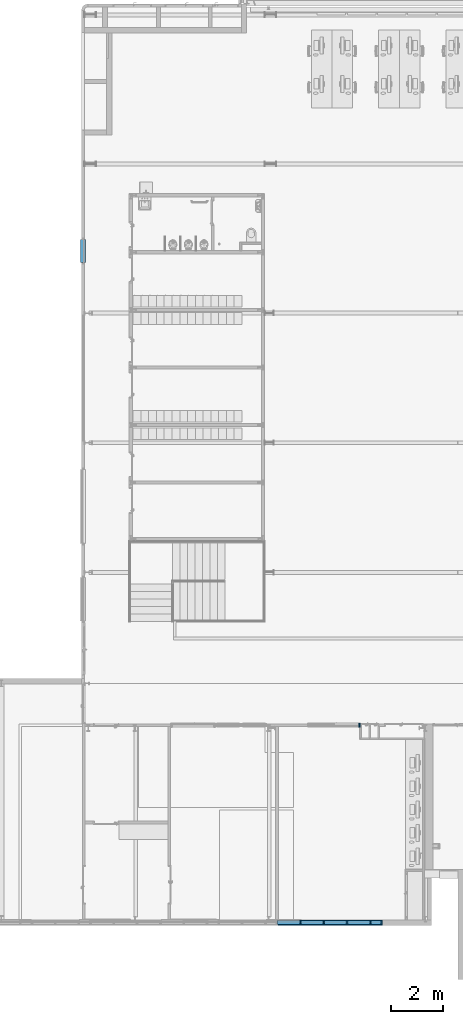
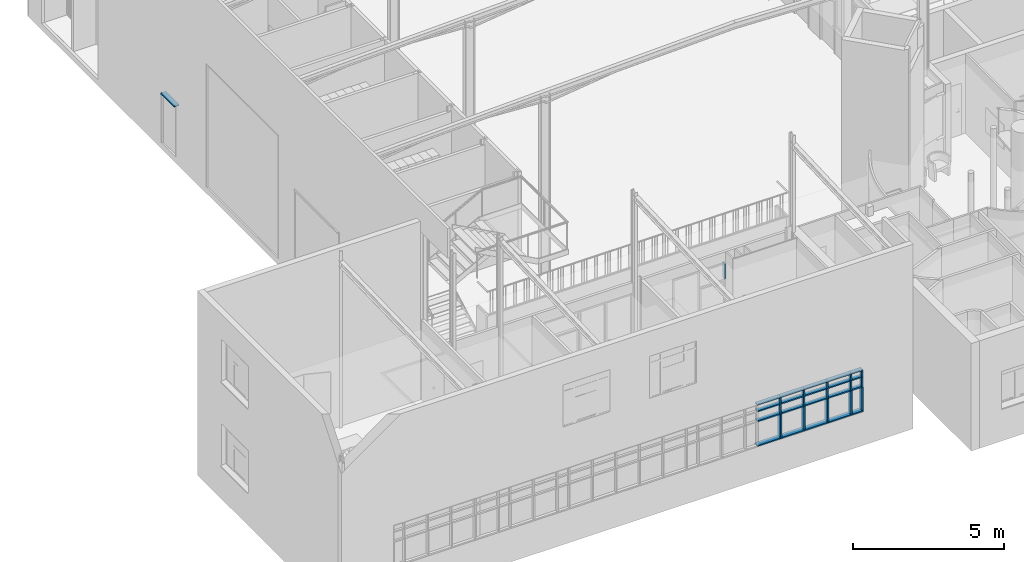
# One storey, part 22 of 137: 37 members, 3 elements without a shape of their own.
"""IFC2X3 building model written with IfcOpenShell, lengths in centimetres."""

from ifc_helpers import new_model, entity, si_unit, converted_unit, derived_unit, direction, frame, frame_2d, origin, origin_2d_with_axis, place, context, subcontext, project, spatial, rectangle, extrude, material, type_object, element, aggregate, save


model = new_model("IFC2X3")

# Units and contexts
model_context = context("Model", 3, precision=0.001, world=origin(), true_north=direction((6.12303176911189e-17, 1.0)))
body_context = subcontext(model_context, "Body", "Model", "MODEL_VIEW")
ifc_project = project(units=[si_unit("LENGTHUNIT", "METRE", prefix="CENTI"), si_unit("AREAUNIT", "SQUARE_METRE"), si_unit("VOLUMEUNIT", "CUBIC_METRE"), converted_unit("PLANEANGLEUNIT", "DEGREE", entity("IfcRatioMeasure", 0.0174532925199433), si_unit("PLANEANGLEUNIT", "RADIAN"), dimensions=[0, 0, 0, 0, 0, 0, 0]), si_unit("MASSUNIT", "GRAM", prefix="KILO"), si_unit("TIMEUNIT", "SECOND"), si_unit("FREQUENCYUNIT", "HERTZ"), si_unit("THERMODYNAMICTEMPERATUREUNIT", "DEGREE_CELSIUS"), derived_unit("THERMALTRANSMITTANCEUNIT", [(si_unit("MASSUNIT", "GRAM", prefix="KILO"), 1), (si_unit("THERMODYNAMICTEMPERATUREUNIT", "KELVIN"), -1), (si_unit("TIMEUNIT", "SECOND"), -3)]), derived_unit("VOLUMETRICFLOWRATEUNIT", [(si_unit("LENGTHUNIT", "METRE"), 3), (si_unit("TIMEUNIT", "SECOND"), -1)]), si_unit("ELECTRICCURRENTUNIT", "AMPERE"), si_unit("ELECTRICVOLTAGEUNIT", "VOLT"), si_unit("POWERUNIT", "WATT"), si_unit("FORCEUNIT", "NEWTON", prefix="KILO"), si_unit("ILLUMINANCEUNIT", "LUX"), si_unit("LUMINOUSFLUXUNIT", "LUMEN"), si_unit("LUMINOUSINTENSITYUNIT", "CANDELA"), derived_unit("USERDEFINED", [(si_unit("MASSUNIT", "GRAM", prefix="KILO"), -1), (si_unit("LENGTHUNIT", "METRE"), -2), (si_unit("TIMEUNIT", "SECOND"), 3), (si_unit("LUMINOUSFLUXUNIT", "LUMEN"), 1)]), derived_unit("LINEARVELOCITYUNIT", [(si_unit("LENGTHUNIT", "METRE"), 1), (si_unit("TIMEUNIT", "SECOND"), -1)]), si_unit("PRESSUREUNIT", "PASCAL"), derived_unit("USERDEFINED", [(si_unit("LENGTHUNIT", "METRE"), -2), (si_unit("MASSUNIT", "GRAM", prefix="KILO"), 1), (si_unit("TIMEUNIT", "SECOND"), -2)])], contexts=[model_context])

# Site, building, storey
site_placement = place(None, frame((8.62739174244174, -249.285249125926, 0.0)))
site = spatial("IfcSite", under=ifc_project, at=site_placement, Name="Default", CompositionType="ELEMENT")
building_placement = place(site_placement, origin())
building = spatial("IfcBuilding", under=site, at=building_placement, CompositionType="ELEMENT")
storey_placement = place(building_placement, origin())
storey = spatial("IfcBuildingStorey", under=building, at=storey_placement, Name="RDC", CompositionType="ELEMENT", Elevation=-8.82465566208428e-11)

# Curtain wall, members
curtain_wall_type = type_object("IfcCurtainWallType", Name="Mur-rideau:Simple panneau", PredefinedType="NOTDEFINED")
curtain_wall_1_placement = place(storey_placement, origin())
curtain_wall_1 = element("IfcCurtainWall", 1, at=curtain_wall_1_placement, inside=storey, type_object=curtain_wall_type, Name="Mur-rideau:Simple panneau", ObjectType="Mur-rideau:Simple panneau")
ifc_material = material(Name="Plastique, blanc opaque")
member_1_placement = place(curtain_wall_1_placement, origin())
member_1 = element("IfcMember", 2, at=member_1_placement, material=ifc_material, Name="Mur-rideau:Simple panneau:661", ObjectType="Mur-rideau:Simple panneau:661", context=body_context, shape_type="SweptSolid", body=[
    extrude(rectangle(XDim=5.0, YDim=15.0, at=frame_2d((2.70894418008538e-14, 1.46105350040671e-13), x_axis=(1.0, 0.0))), frame((1999.0, 11.0, 277.500000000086), z_axis=(-1.0, 0.0, 0.0), x_axis=(0.0, 0.0, -1.0)), (0.0, 0.0, 1.0), 45.0000000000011),
])
member_2_placement = place(curtain_wall_1_placement, origin())
member_2 = element("IfcMember", 3, at=member_2_placement, material=ifc_material, Name="Mur-rideau:Simple panneau", ObjectType="Mur-rideau:Simple panneau", context=body_context, shape_type="SweptSolid", body=[
    extrude(rectangle(XDim=5.00000000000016, YDim=20.0, at=frame_2d((-2.16715534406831e-13, 1.77635683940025e-15), x_axis=(1.0, 0.0))), frame((1996.5, 11.0, 115.0), z_axis=(0.0, 0.0, 1.0), x_axis=(-1.0, 0.0, 0.0)), (0.0, 0.0, 1.0), 95.0),
])
member_3_placement = place(curtain_wall_1_placement, origin())
member_3 = element("IfcMember", 4, at=member_3_placement, material=ifc_material, Name="Mur-rideau:Simple panneau:661", ObjectType="Mur-rideau:Simple panneau:661", context=body_context, shape_type="SweptSolid", body=[
    extrude(rectangle(XDim=5.00000000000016, YDim=15.0, at=frame_2d((-2.16715534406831e-13, 1.33226762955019e-15), x_axis=(1.0, 0.0))), frame((1996.5, 11.0, 210.0), z_axis=(0.0, 0.0, 1.0), x_axis=(-1.0, 0.0, 0.0)), (0.0, 0.0, 1.0), 40.0),
])
member_4_placement = place(curtain_wall_1_placement, origin())
member_4 = element("IfcMember", 5, at=member_4_placement, material=ifc_material, Name="Mur-rideau:Simple panneau:661", ObjectType="Mur-rideau:Simple panneau:661", context=body_context, shape_type="SweptSolid", body=[
    extrude(rectangle(XDim=5.00000000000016, YDim=15.0, at=frame_2d((-2.16715534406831e-13, 1.33226762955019e-15), x_axis=(1.0, 0.0))), frame((1996.5, 11.0, 250.0), z_axis=(0.0, 0.0, 1.0), x_axis=(-1.0, 0.0, 0.0)), (0.0, 0.0, 1.0), 25.0),
])
member_5_placement = place(curtain_wall_1_placement, origin())
member_5 = element("IfcMember", 6, at=member_5_placement, material=ifc_material, Name="Mur-rideau:Simple panneau", ObjectType="Mur-rideau:Simple panneau", context=body_context, shape_type="SweptSolid", body=[
    extrude(rectangle(XDim=5.0, YDim=20.0, at=frame_2d((0.0, 2.91322521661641e-13), x_axis=(1.0, 0.0))), frame((1594.0, 11.0, 112.500000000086), z_axis=(1.0, 0.0, 0.0), x_axis=(0.0, 0.0, -1.0)), (0.0, 0.0, 1.0), 90.0),
])
member_6_placement = place(curtain_wall_1_placement, origin())
member_6 = element("IfcMember", 7, at=member_6_placement, material=ifc_material, Name="Mur-rideau:Simple panneau:661", ObjectType="Mur-rideau:Simple panneau:661", context=body_context, shape_type="SweptSolid", body=[
    extrude(rectangle(XDim=5.0, YDim=15.0, at=frame_2d((2.70894418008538e-14, 2.89990254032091e-13), x_axis=(1.0, 0.0))), frame((1684.0, 11.0, 277.500000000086), z_axis=(-1.0, 0.0, 0.0), x_axis=(0.0, 0.0, -1.0)), (0.0, 0.0, 1.0), 89.9999999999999),
])
member_7_placement = place(curtain_wall_1_placement, origin())
member_7 = element("IfcMember", 8, at=member_7_placement, material=ifc_material, Name="Mur-rideau:Simple panneau", ObjectType="Mur-rideau:Simple panneau", context=body_context, shape_type="SweptSolid", body=[
    extrude(rectangle(XDim=5.0, YDim=20.0, at=frame_2d((0.0, 2.91322521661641e-13), x_axis=(1.0, 0.0))), frame((1684.0, 11.0, 112.500000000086), z_axis=(1.0, 0.0, 0.0), x_axis=(0.0, 0.0, -1.0)), (0.0, 0.0, 1.0), 90.0),
])
member_8_placement = place(curtain_wall_1_placement, origin())
member_8 = element("IfcMember", 9, at=member_8_placement, material=ifc_material, Name="Mur-rideau:Simple panneau:661", ObjectType="Mur-rideau:Simple panneau:661", context=body_context, shape_type="SweptSolid", body=[
    extrude(rectangle(XDim=5.0, YDim=15.0, at=frame_2d((2.70894418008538e-14, 2.89990254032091e-13), x_axis=(1.0, 0.0))), frame((1774.0, 11.0, 277.500000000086), z_axis=(-1.0, 0.0, 0.0), x_axis=(0.0, 0.0, -1.0)), (0.0, 0.0, 1.0), 89.9999999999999),
])
member_9_placement = place(curtain_wall_1_placement, origin())
member_9 = element("IfcMember", 10, at=member_9_placement, material=ifc_material, Name="Mur-rideau:Simple panneau", ObjectType="Mur-rideau:Simple panneau", context=body_context, shape_type="SweptSolid", body=[
    extrude(rectangle(XDim=5.0, YDim=20.0, at=frame_2d((0.0, 2.91322521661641e-13), x_axis=(1.0, 0.0))), frame((1774.0, 11.0, 112.500000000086), z_axis=(1.0, 0.0, 0.0), x_axis=(0.0, 0.0, -1.0)), (0.0, 0.0, 1.0), 90.0),
])
member_10_placement = place(curtain_wall_1_placement, origin())
member_10 = element("IfcMember", 11, at=member_10_placement, material=ifc_material, Name="Mur-rideau:Simple panneau:661", ObjectType="Mur-rideau:Simple panneau:661", context=body_context, shape_type="SweptSolid", body=[
    extrude(rectangle(XDim=5.0, YDim=15.0, at=frame_2d((2.70894418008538e-14, 2.89990254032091e-13), x_axis=(1.0, 0.0))), frame((1864.0, 11.0, 277.500000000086), z_axis=(-1.0, 0.0, 0.0), x_axis=(0.0, 0.0, -1.0)), (0.0, 0.0, 1.0), 89.9999999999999),
])
member_11_placement = place(curtain_wall_1_placement, origin())
member_11 = element("IfcMember", 12, at=member_11_placement, material=ifc_material, Name="Mur-rideau:Simple panneau", ObjectType="Mur-rideau:Simple panneau", context=body_context, shape_type="SweptSolid", body=[
    extrude(rectangle(XDim=5.0, YDim=20.0, at=frame_2d((0.0, 2.91322521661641e-13), x_axis=(1.0, 0.0))), frame((1864.0, 11.0, 112.500000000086), z_axis=(1.0, 0.0, 0.0), x_axis=(0.0, 0.0, -1.0)), (0.0, 0.0, 1.0), 90.0000000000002),
])
member_12_placement = place(curtain_wall_1_placement, origin())
member_12 = element("IfcMember", 13, at=member_12_placement, material=ifc_material, Name="Mur-rideau:Simple panneau:661", ObjectType="Mur-rideau:Simple panneau:661", context=body_context, shape_type="SweptSolid", body=[
    extrude(rectangle(XDim=5.0, YDim=15.0, at=frame_2d((2.70894418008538e-14, 2.89990254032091e-13), x_axis=(1.0, 0.0))), frame((1954.0, 11.0, 277.500000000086), z_axis=(-1.0, 0.0, 0.0), x_axis=(0.0, 0.0, -1.0)), (0.0, 0.0, 1.0), 89.9999999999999),
])
member_13_placement = place(curtain_wall_1_placement, origin())
member_13 = element("IfcMember", 14, at=member_13_placement, material=ifc_material, Name="Mur-rideau:Simple panneau", ObjectType="Mur-rideau:Simple panneau", context=body_context, shape_type="SweptSolid", body=[
    extrude(rectangle(XDim=5.0, YDim=20.0, at=frame_2d((0.0, 1.47437617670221e-13), x_axis=(1.0, 0.0))), frame((1954.0, 11.0, 112.500000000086), z_axis=(1.0, 0.0, 0.0), x_axis=(0.0, 0.0, -1.0)), (0.0, 0.0, 1.0), 45.0000000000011),
])
member_14_placement = place(curtain_wall_1_placement, origin())
member_14 = element("IfcMember", 15, at=member_14_placement, material=ifc_material, Name="Mur-rideau:Simple panneau:661", ObjectType="Mur-rideau:Simple panneau:661", context=body_context, shape_type="SweptSolid", body=[
    extrude(rectangle(XDim=4.99999999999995, YDim=15.0, at=frame_2d((0.0, 1.20792265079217e-13), x_axis=(1.0, 0.0))), frame((1994.0, 11.0, 250.0), z_axis=(-1.0, 0.0, 0.0), x_axis=(0.0, 0.0, -1.0)), (0.0, 0.0, 1.0), 37.5000000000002),
])
member_15_placement = place(curtain_wall_1_placement, origin())
member_15 = element("IfcMember", 16, at=member_15_placement, material=ifc_material, Name="Mur-rideau:Simple panneau:661", ObjectType="Mur-rideau:Simple panneau:661", context=body_context, shape_type="SweptSolid", body=[
    extrude(rectangle(XDim=4.99999999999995, YDim=15.0, at=frame_2d((0.0, 2.74003042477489e-13), x_axis=(1.0, 0.0))), frame((1951.5, 11.0, 250.0), z_axis=(-1.0, 0.0, 0.0), x_axis=(0.0, 0.0, -1.0)), (0.0, 0.0, 1.0), 85.0),
])
member_16_placement = place(curtain_wall_1_placement, origin())
member_16 = element("IfcMember", 17, at=member_16_placement, material=ifc_material, Name="Mur-rideau:Simple panneau:661", ObjectType="Mur-rideau:Simple panneau:661", context=body_context, shape_type="SweptSolid", body=[
    extrude(rectangle(XDim=4.99999999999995, YDim=15.0, at=frame_2d((0.0, 2.74003042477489e-13), x_axis=(1.0, 0.0))), frame((1861.5, 11.0, 250.0), z_axis=(-1.0, 0.0, 0.0), x_axis=(0.0, 0.0, -1.0)), (0.0, 0.0, 1.0), 85.0),
])
member_17_placement = place(curtain_wall_1_placement, origin())
member_17 = element("IfcMember", 18, at=member_17_placement, material=ifc_material, Name="Mur-rideau:Simple panneau:661", ObjectType="Mur-rideau:Simple panneau:661", context=body_context, shape_type="SweptSolid", body=[
    extrude(rectangle(XDim=4.99999999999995, YDim=15.0, at=frame_2d((0.0, 2.74003042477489e-13), x_axis=(1.0, 0.0))), frame((1771.5, 11.0, 250.0), z_axis=(-1.0, 0.0, 0.0), x_axis=(0.0, 0.0, -1.0)), (0.0, 0.0, 1.0), 85.0),
])
member_18_placement = place(curtain_wall_1_placement, origin())
member_18 = element("IfcMember", 19, at=member_18_placement, material=ifc_material, Name="Mur-rideau:Simple panneau:661", ObjectType="Mur-rideau:Simple panneau:661", context=body_context, shape_type="SweptSolid", body=[
    extrude(rectangle(XDim=4.99999999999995, YDim=15.0, at=frame_2d((0.0, 2.74003042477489e-13), x_axis=(1.0, 0.0))), frame((1681.5, 11.0, 250.0), z_axis=(-1.0, 0.0, 0.0), x_axis=(0.0, 0.0, -1.0)), (0.0, 0.0, 1.0), 85.0),
])
member_19_placement = place(curtain_wall_1_placement, origin())
member_19 = element("IfcMember", 20, at=member_19_placement, material=ifc_material, Name="Mur-rideau:Simple panneau:661", ObjectType="Mur-rideau:Simple panneau:661", context=body_context, shape_type="SweptSolid", body=[
    extrude(rectangle(XDim=5.0, YDim=15.0, at=frame_2d((0.0, 1.20792265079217e-13), x_axis=(1.0, 0.0))), frame((1994.0, 11.0, 210.0), z_axis=(-1.0, 0.0, 0.0), x_axis=(0.0, 0.0, -1.0)), (0.0, 0.0, 1.0), 37.5000000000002),
])
member_20_placement = place(curtain_wall_1_placement, origin())
member_20 = element("IfcMember", 21, at=member_20_placement, material=ifc_material, Name="Mur-rideau:Simple panneau:661", ObjectType="Mur-rideau:Simple panneau:661", context=body_context, shape_type="SweptSolid", body=[
    extrude(rectangle(XDim=5.0, YDim=15.0, at=frame_2d((0.0, 2.74003042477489e-13), x_axis=(1.0, 0.0))), frame((1951.5, 11.0, 210.0), z_axis=(-1.0, 0.0, 0.0), x_axis=(0.0, 0.0, -1.0)), (0.0, 0.0, 1.0), 85.0),
])
member_21_placement = place(curtain_wall_1_placement, origin())
member_21 = element("IfcMember", 22, at=member_21_placement, material=ifc_material, Name="Mur-rideau:Simple panneau:661", ObjectType="Mur-rideau:Simple panneau:661", context=body_context, shape_type="SweptSolid", body=[
    extrude(rectangle(XDim=5.0, YDim=15.0, at=frame_2d((0.0, 2.74003042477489e-13), x_axis=(1.0, 0.0))), frame((1861.5, 11.0, 210.0), z_axis=(-1.0, 0.0, 0.0), x_axis=(0.0, 0.0, -1.0)), (0.0, 0.0, 1.0), 85.0),
])
member_22_placement = place(curtain_wall_1_placement, origin())
member_22 = element("IfcMember", 23, at=member_22_placement, material=ifc_material, Name="Mur-rideau:Simple panneau:661", ObjectType="Mur-rideau:Simple panneau:661", context=body_context, shape_type="SweptSolid", body=[
    extrude(rectangle(XDim=5.0, YDim=15.0, at=frame_2d((0.0, 2.74003042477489e-13), x_axis=(1.0, 0.0))), frame((1771.5, 11.0, 210.0), z_axis=(-1.0, 0.0, 0.0), x_axis=(0.0, 0.0, -1.0)), (0.0, 0.0, 1.0), 85.0),
])
member_23_placement = place(curtain_wall_1_placement, origin())
member_23 = element("IfcMember", 24, at=member_23_placement, material=ifc_material, Name="Mur-rideau:Simple panneau:661", ObjectType="Mur-rideau:Simple panneau:661", context=body_context, shape_type="SweptSolid", body=[
    extrude(rectangle(XDim=5.0, YDim=15.0, at=frame_2d((0.0, 2.74003042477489e-13), x_axis=(1.0, 0.0))), frame((1681.5, 11.0, 210.0), z_axis=(-1.0, 0.0, 0.0), x_axis=(0.0, 0.0, -1.0)), (0.0, 0.0, 1.0), 85.0),
])
member_24_placement = place(curtain_wall_1_placement, origin())
member_24 = element("IfcMember", 25, at=member_24_placement, material=ifc_material, Name="Mur-rideau:Simple panneau:661", ObjectType="Mur-rideau:Simple panneau:661", context=body_context, shape_type="SweptSolid", body=[
    extrude(rectangle(XDim=5.00000000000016, YDim=15.0, at=frame_2d((0.0, 8.88178419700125e-16), x_axis=(1.0, 0.0))), frame((1684.0, 11.0, 250.0), z_axis=(0.0, 0.0, 1.0), x_axis=(-1.0, 0.0, 0.0)), (0.0, 0.0, 1.0), 25.0),
])
member_25_placement = place(curtain_wall_1_placement, origin())
member_25 = element("IfcMember", 26, at=member_25_placement, material=ifc_material, Name="Mur-rideau:Simple panneau:661", ObjectType="Mur-rideau:Simple panneau:661", context=body_context, shape_type="SweptSolid", body=[
    extrude(rectangle(XDim=5.00000000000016, YDim=15.0, at=origin_2d_with_axis()), frame((1684.0, 11.0, 210.0), z_axis=(0.0, 0.0, 1.0), x_axis=(-1.0, 0.0, 0.0)), (0.0, 0.0, 1.0), 40.0),
])
member_26_placement = place(curtain_wall_1_placement, origin())
member_26 = element("IfcMember", 27, at=member_26_placement, material=ifc_material, Name="Mur-rideau:Simple panneau", ObjectType="Mur-rideau:Simple panneau", context=body_context, shape_type="SweptSolid", body=[
    extrude(rectangle(XDim=5.00000000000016, YDim=20.0, at=origin_2d_with_axis()), frame((1684.0, 11.0, 115.0), z_axis=(0.0, 0.0, 1.0), x_axis=(-1.0, 0.0, 0.0)), (0.0, 0.0, 1.0), 95.0),
])
member_27_placement = place(curtain_wall_1_placement, origin())
member_27 = element("IfcMember", 28, at=member_27_placement, material=ifc_material, Name="Mur-rideau:Simple panneau:661", ObjectType="Mur-rideau:Simple panneau:661", context=body_context, shape_type="SweptSolid", body=[
    extrude(rectangle(XDim=5.00000000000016, YDim=15.0, at=frame_2d((0.0, 8.88178419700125e-16), x_axis=(1.0, 0.0))), frame((1774.0, 11.0, 250.0), z_axis=(0.0, 0.0, 1.0), x_axis=(-1.0, 0.0, 0.0)), (0.0, 0.0, 1.0), 25.0),
])
member_28_placement = place(curtain_wall_1_placement, origin())
member_28 = element("IfcMember", 29, at=member_28_placement, material=ifc_material, Name="Mur-rideau:Simple panneau:661", ObjectType="Mur-rideau:Simple panneau:661", context=body_context, shape_type="SweptSolid", body=[
    extrude(rectangle(XDim=5.00000000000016, YDim=15.0, at=origin_2d_with_axis()), frame((1774.0, 11.0, 210.0), z_axis=(0.0, 0.0, 1.0), x_axis=(-1.0, 0.0, 0.0)), (0.0, 0.0, 1.0), 40.0),
])
member_29_placement = place(curtain_wall_1_placement, origin())
member_29 = element("IfcMember", 30, at=member_29_placement, material=ifc_material, Name="Mur-rideau:Simple panneau", ObjectType="Mur-rideau:Simple panneau", context=body_context, shape_type="SweptSolid", body=[
    extrude(rectangle(XDim=5.00000000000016, YDim=20.0, at=origin_2d_with_axis()), frame((1774.0, 11.0, 115.0), z_axis=(0.0, 0.0, 1.0), x_axis=(-1.0, 0.0, 0.0)), (0.0, 0.0, 1.0), 95.0),
])
member_30_placement = place(curtain_wall_1_placement, origin())
member_30 = element("IfcMember", 31, at=member_30_placement, material=ifc_material, Name="Mur-rideau:Simple panneau:661", ObjectType="Mur-rideau:Simple panneau:661", context=body_context, shape_type="SweptSolid", body=[
    extrude(rectangle(XDim=5.00000000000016, YDim=15.0, at=frame_2d((0.0, 8.88178419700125e-16), x_axis=(1.0, 0.0))), frame((1864.0, 11.0, 250.0), z_axis=(0.0, 0.0, 1.0), x_axis=(-1.0, 0.0, 0.0)), (0.0, 0.0, 1.0), 25.0),
])
member_31_placement = place(curtain_wall_1_placement, origin())
member_31 = element("IfcMember", 32, at=member_31_placement, material=ifc_material, Name="Mur-rideau:Simple panneau:661", ObjectType="Mur-rideau:Simple panneau:661", context=body_context, shape_type="SweptSolid", body=[
    extrude(rectangle(XDim=5.00000000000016, YDim=15.0, at=origin_2d_with_axis()), frame((1864.0, 11.0, 210.0), z_axis=(0.0, 0.0, 1.0), x_axis=(-1.0, 0.0, 0.0)), (0.0, 0.0, 1.0), 40.0),
])
member_32_placement = place(curtain_wall_1_placement, origin())
member_32 = element("IfcMember", 33, at=member_32_placement, material=ifc_material, Name="Mur-rideau:Simple panneau", ObjectType="Mur-rideau:Simple panneau", context=body_context, shape_type="SweptSolid", body=[
    extrude(rectangle(XDim=5.00000000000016, YDim=20.0, at=origin_2d_with_axis()), frame((1864.0, 11.0, 115.0), z_axis=(0.0, 0.0, 1.0), x_axis=(-1.0, 0.0, 0.0)), (0.0, 0.0, 1.0), 95.0),
])
member_33_placement = place(curtain_wall_1_placement, origin())
member_33 = element("IfcMember", 34, at=member_33_placement, material=ifc_material, Name="Mur-rideau:Simple panneau:661", ObjectType="Mur-rideau:Simple panneau:661", context=body_context, shape_type="SweptSolid", body=[
    extrude(rectangle(XDim=4.99999999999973, YDim=15.0, at=frame_2d((0.0, 8.88178419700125e-16), x_axis=(1.0, 0.0))), frame((1954.0, 11.0, 250.0), z_axis=(0.0, 0.0, 1.0), x_axis=(-1.0, 0.0, 0.0)), (0.0, 0.0, 1.0), 25.0),
])
member_34_placement = place(curtain_wall_1_placement, origin())
member_34 = element("IfcMember", 35, at=member_34_placement, material=ifc_material, Name="Mur-rideau:Simple panneau:661", ObjectType="Mur-rideau:Simple panneau:661", context=body_context, shape_type="SweptSolid", body=[
    extrude(rectangle(XDim=4.99999999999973, YDim=15.0, at=origin_2d_with_axis()), frame((1954.0, 11.0, 210.0), z_axis=(0.0, 0.0, 1.0), x_axis=(-1.0, 0.0, 0.0)), (0.0, 0.0, 1.0), 40.0),
])
member_35_placement = place(curtain_wall_1_placement, origin())
member_35 = element("IfcMember", 36, at=member_35_placement, material=ifc_material, Name="Mur-rideau:Simple panneau", ObjectType="Mur-rideau:Simple panneau", context=body_context, shape_type="SweptSolid", body=[
    extrude(rectangle(XDim=4.99999999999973, YDim=20.0, at=origin_2d_with_axis()), frame((1954.0, 11.0, 115.0), z_axis=(0.0, 0.0, 1.0), x_axis=(-1.0, 0.0, 0.0)), (0.0, 0.0, 1.0), 95.0),
])
aggregate(curtain_wall_1, [member_1, member_2, member_3, member_4, member_5, member_6, member_7, member_8, member_9, member_10, member_11, member_12, member_13, member_14, member_15, member_16, member_17, member_18, member_19, member_20, member_21, member_22, member_23, member_24, member_25, member_26, member_27, member_28, member_29, member_30, member_31, member_32, member_33, member_34, member_35])

# Curtain wall, member
curtain_wall_2_placement = place(storey_placement, origin())
curtain_wall_2 = element("IfcCurtainWall", 37, at=curtain_wall_2_placement, inside=storey, type_object=curtain_wall_type, Name="Mur-rideau:Simple panneau", ObjectType="Mur-rideau:Simple panneau")
member_36_placement = place(curtain_wall_2_placement, origin())
member_36 = element("IfcMember", 38, at=member_36_placement, material=ifc_material, Name="Mur-rideau:Simple panneau:661", ObjectType="Mur-rideau:Simple panneau:661", context=body_context, shape_type="SweptSolid", body=[
    extrude(rectangle(XDim=4.99999999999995, YDim=15.0000000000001, at=frame_2d((-1.08357767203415e-13, 1.08357767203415e-13), x_axis=(1.0, 0.0))), frame((1912.40482780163, 773.0, 275.0), z_axis=(0.0, 0.0, -1.0), x_axis=(-1.0, 0.0, 0.0)), (0.0, 0.0, 1.0), 62.0),
])
aggregate(curtain_wall_2, [member_36])

curtain_wall_3_placement = place(storey_placement, origin())
curtain_wall_3 = element("IfcCurtainWall", 39, at=curtain_wall_3_placement, inside=storey, type_object=curtain_wall_type, Name="Mur-rideau:Simple panneau", ObjectType="Mur-rideau:Simple panneau")
member_37_placement = place(curtain_wall_3_placement, origin())
member_37 = element("IfcMember", 40, at=member_37_placement, material=ifc_material, Name="Mur-rideau:Simple panneau", ObjectType="Mur-rideau:Simple panneau", context=body_context, shape_type="SweptSolid", body=[
    extrude(rectangle(XDim=5.0, YDim=20.0, at=frame_2d((0.0, 1.08357767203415e-13), x_axis=(1.0, 0.0))), frame((845.404827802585, 2556.48020806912, 201.500000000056), z_axis=(0.0, 1.0, 0.0), x_axis=(0.0, 0.0, -1.0)), (0.0, 0.0, 1.0), 89.0000000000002),
])
aggregate(curtain_wall_3, [member_37])

save(model, "model.ifc")
